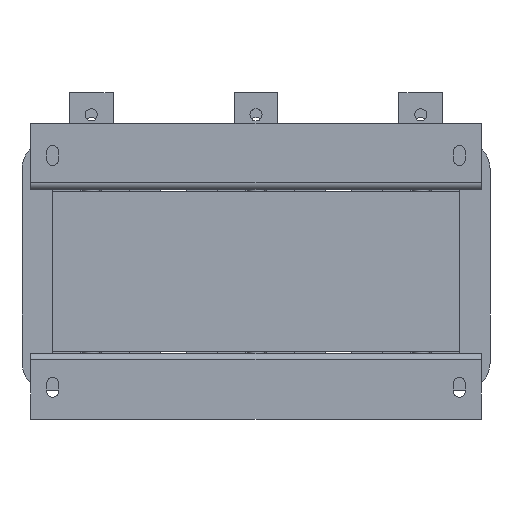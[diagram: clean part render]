
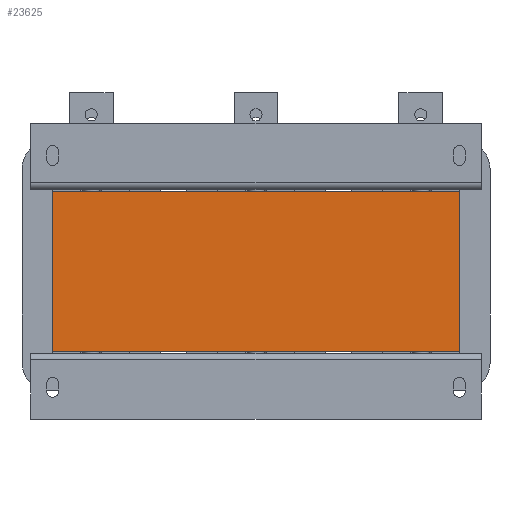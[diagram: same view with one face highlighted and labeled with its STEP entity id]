
A CAD part, front view. The second image highlights one B-rep face of the part: STEP entity #23625.
In plain terms, the highlighted planar face has unit normal (0, -1, 0).
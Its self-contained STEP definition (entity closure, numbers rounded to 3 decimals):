
#313=DIRECTION('',(1.,0.,0.));
#314=VECTOR('',#313,370.);
#315=CARTESIAN_POINT('',(-185.,-35.,-72.5));
#316=LINE('',#315,#314);
#1795=DIRECTION('',(0.,0.,-1.));
#1796=VECTOR('',#1795,145.);
#1797=CARTESIAN_POINT('',(185.,-35.,72.5));
#1798=LINE('',#1797,#1796);
#3182=DIRECTION('',(1.,0.,0.));
#3183=VECTOR('',#3182,370.);
#3184=CARTESIAN_POINT('',(-185.,-35.,72.5));
#3185=LINE('',#3184,#3183);
#7290=DIRECTION('',(0.,0.,-1.));
#7291=VECTOR('',#7290,145.);
#7292=CARTESIAN_POINT('',(-185.,-35.,72.5));
#7293=LINE('',#7292,#7291);
#12644=CARTESIAN_POINT('',(-185.,-35.,72.5));
#12645=CARTESIAN_POINT('',(185.,-35.,72.5));
#12646=VERTEX_POINT('',#12644);
#12647=VERTEX_POINT('',#12645);
#12652=CARTESIAN_POINT('',(-185.,-35.,-72.5));
#12653=CARTESIAN_POINT('',(185.,-35.,-72.5));
#12654=VERTEX_POINT('',#12652);
#12655=VERTEX_POINT('',#12653);
#23614=CARTESIAN_POINT('',(-185.,-35.,72.5));
#23615=DIRECTION('',(0.,-1.,0.));
#23616=DIRECTION('',(1.,0.,0.));
#23617=AXIS2_PLACEMENT_3D('',#23614,#23615,#23616);
#23618=PLANE('',#23617);
#23619=ORIENTED_EDGE('',*,*,#18056,.T.);
#23620=ORIENTED_EDGE('',*,*,#16472,.T.);
#23621=ORIENTED_EDGE('',*,*,#14961,.F.);
#23622=ORIENTED_EDGE('',*,*,#15237,.F.);
#23623=EDGE_LOOP('',(#23619,#23620,#23621,#23622));
#23624=FACE_OUTER_BOUND('',#23623,.F.);
#14961=EDGE_CURVE('',#12654,#12655,#316,.T.);
#15237=EDGE_CURVE('',#12646,#12654,#7293,.T.);
#16472=EDGE_CURVE('',#12647,#12655,#1798,.T.);
#18056=EDGE_CURVE('',#12646,#12647,#3185,.T.);
#23625=ADVANCED_FACE('',(#23624),#23618,.T.);
